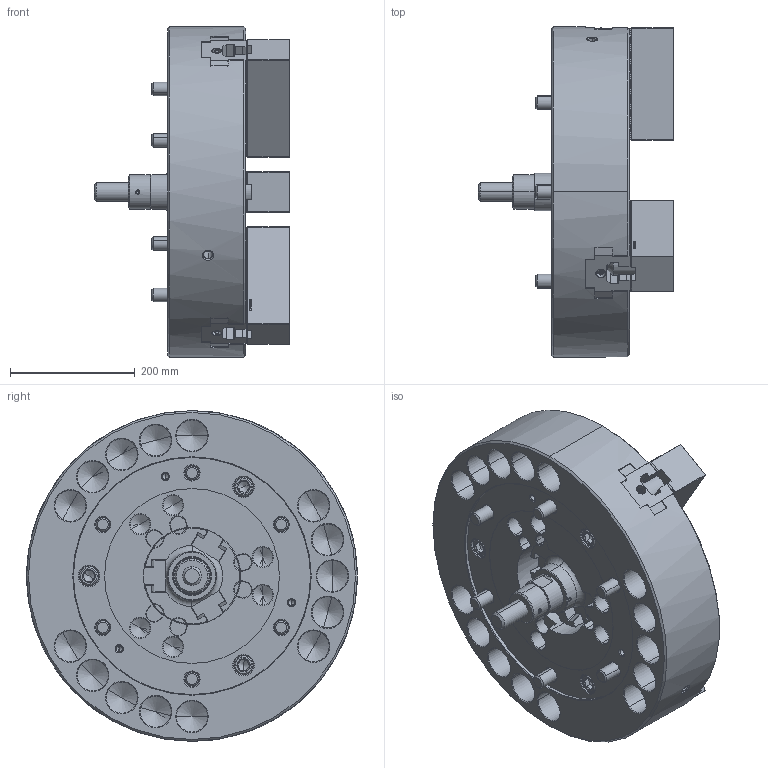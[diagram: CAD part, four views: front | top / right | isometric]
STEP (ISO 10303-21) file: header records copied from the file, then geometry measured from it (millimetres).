
FILE_DESCRIPTION (( 'STEP AP214' ), '1' );
FILE_NAME ('DT1_N-21_OUTSIDE_VIEW_HUL.STEP', '2026-03-18T23:59:39', ( '' ), ( '' ), 'SwSTEP 2.0', 'SolidWorks 2022', '' );
FILE_SCHEMA (( 'AUTOMOTIVE_DESIGN' ));
Length unit declared in the file: millimetre
Products named in the file (11): DT1_N-21_TNUT^DT1_N-21; DT1_N-21_DRAWSCREW^DT1_N-21; DT1_N-21_OUTSIDE_VIEW_HUL; DT1_N-21_BASE^DT1_N-21; Copy of 61P321208^DT1_N-21; DT1_N-21_COVER^DT1_N-21; DT1_N-21_M6x12^DT1_N-21; DT1_N-21_M20x60^DT1_N-21; DT1_N-21_M22x120^DT1_N-21; DT1_N-21_DN^DT1_N-21; DT1_N-21_SOFTJAW^DT1_N-21
Assembly tree (29 placements, depth 2):
  DT1_N-21_OUTSIDE_VIEW_HUL
    DT1_N-21_SOFTJAW^DT1_N-21  x3
    DT1_N-21_TNUT^DT1_N-21  x6
    DT1_N-21_COVER^DT1_N-21
    DT1_N-21_DRAWSCREW^DT1_N-21
    Copy of 61P321208^DT1_N-21
    DT1_N-21_DN^DT1_N-21
    DT1_N-21_BASE^DT1_N-21
    DT1_N-21_M6x12^DT1_N-21  x3
    DT1_N-21_M22x120^DT1_N-21  x6
    DT1_N-21_M20x60^DT1_N-21  x6
Bounding box: 313.56 x 530 x 530 mm (x, y, z)
Volume: 25881711.3 mm3; surface area: 1644513.8 mm2
Topology: 29 solids, 47 shells, 8159 faces, 23040 edges, 15128 vertices
Faces by surface type: plane 5150, cylinder 1538, bspline 848, cone 537, torus 80, sphere 6
Entity records: 227974 total; most frequent: CARTESIAN_POINT 72706, ORIENTED_EDGE 35204, DIRECTION 27387, EDGE_CURVE 17602, LINE 13209, VECTOR 13209, VERTEX_POINT 11602, AXIS2_PLACEMENT_3D 7089
